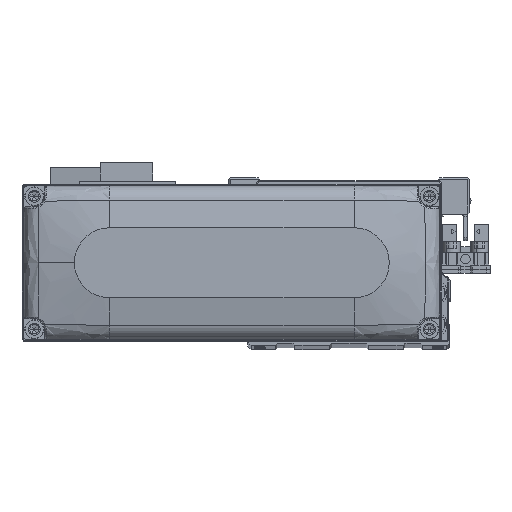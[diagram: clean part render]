
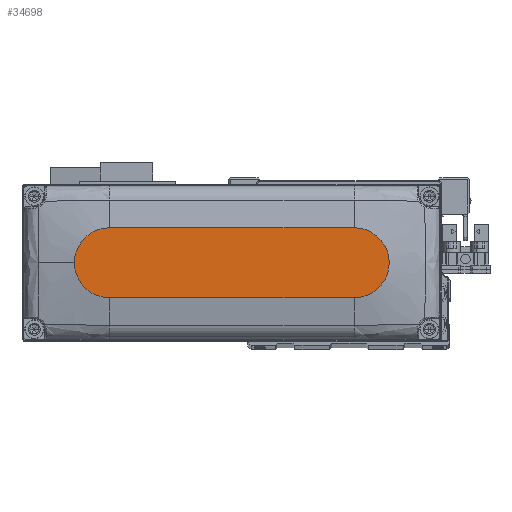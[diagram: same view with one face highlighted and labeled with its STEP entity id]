
A CAD part, top view. The second image highlights one B-rep face of the part: STEP entity #34698.
In plain terms, the highlighted planar face has unit normal (0, 0, 1).
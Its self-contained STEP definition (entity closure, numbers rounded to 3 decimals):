
#624 = CIRCLE ( 'NONE', #28200, 10. ) ;
#2427 = DIRECTION ( 'NONE',  ( 0., 0., 1. ) ) ;
#2780 = CARTESIAN_POINT ( 'NONE',  ( 0., 0., 28. ) ) ;
#2792 = CARTESIAN_POINT ( 'NONE',  ( -35., -10., 28. ) ) ;
#4829 = EDGE_CURVE ( 'NONE', #12061, #28481, #25155, .T. ) ;
#5928 = EDGE_LOOP ( 'NONE', ( #20761, #17204, #14498, #31996, #19137 ) ) ;
#7995 = CARTESIAN_POINT ( 'NONE',  ( -35., 0., 28. ) ) ;
#8040 = DIRECTION ( 'NONE',  ( 1., 0., 0. ) ) ;
#8053 = CIRCLE ( 'NONE', #30480, 10. ) ;
#8997 = DIRECTION ( 'NONE',  ( -1., 0., 0. ) ) ;
#9895 = DIRECTION ( 'NONE',  ( 1., 0., 0. ) ) ;
#10412 = CARTESIAN_POINT ( 'NONE',  ( 45., 0., 28. ) ) ;
#11120 = CIRCLE ( 'NONE', #33553, 10. ) ;
#12061 = VERTEX_POINT ( 'NONE', #2792 ) ;
#12557 = EDGE_CURVE ( 'NONE', #23220, #33184, #24252, .T. ) ;
#13156 = EDGE_CURVE ( 'NONE', #28481, #34905, #11120, .T. ) ;
#14498 = ORIENTED_EDGE ( 'NONE', *, *, #4829, .T. ) ;
#14690 = DIRECTION ( 'NONE',  ( 1., 0., 0. ) ) ;
#15028 = DIRECTION ( 'NONE',  ( 0., 0., 1. ) ) ;
#17204 = ORIENTED_EDGE ( 'NONE', *, *, #20162, .T. ) ;
#18052 = FACE_OUTER_BOUND ( 'NONE', #5928, .T. ) ;
#19137 = ORIENTED_EDGE ( 'NONE', *, *, #25427, .T. ) ;
#19582 = CARTESIAN_POINT ( 'NONE',  ( 35., -10., 28. ) ) ;
#20162 = EDGE_CURVE ( 'NONE', #33184, #12061, #8053, .T. ) ;
#20241 = DIRECTION ( 'NONE',  ( 0., 0., 1. ) ) ;
#20761 = ORIENTED_EDGE ( 'NONE', *, *, #12557, .T. ) ;
#21051 = CARTESIAN_POINT ( 'NONE',  ( -35., 10., 28. ) ) ;
#22076 = VECTOR ( 'NONE', #9895, 1000. ) ;
#23220 = VERTEX_POINT ( 'NONE', #29824 ) ;
#23294 = CARTESIAN_POINT ( 'NONE',  ( 35., 0., 28. ) ) ;
#24252 = LINE ( 'NONE', #36446, #28491 ) ;
#25155 = LINE ( 'NONE', #37341, #22076 ) ;
#25427 = EDGE_CURVE ( 'NONE', #34905, #23220, #624, .T. ) ;
#27276 = DIRECTION ( 'NONE',  ( 1., 0., 0. ) ) ;
#28200 = AXIS2_PLACEMENT_3D ( 'NONE', #29940, #2427, #14690 ) ;
#28481 = VERTEX_POINT ( 'NONE', #19582 ) ;
#28491 = VECTOR ( 'NONE', #8997, 1000. ) ;
#29824 = CARTESIAN_POINT ( 'NONE',  ( 35., 10., 28. ) ) ;
#29940 = CARTESIAN_POINT ( 'NONE',  ( 35., 0., 28. ) ) ;
#30287 = PLANE ( 'NONE',  #35619 ) ;
#30480 = AXIS2_PLACEMENT_3D ( 'NONE', #7995, #20241, #32466 ) ;
#31996 = ORIENTED_EDGE ( 'NONE', *, *, #13156, .T. ) ;
#32466 = DIRECTION ( 'NONE',  ( 1., 0., 0. ) ) ;
#33184 = VERTEX_POINT ( 'NONE', #21051 ) ;
#33553 = AXIS2_PLACEMENT_3D ( 'NONE', #23294, #35488, #8040 ) ;
#34698 = ADVANCED_FACE ( 'NONE', ( #18052 ), #30287, .T. ) ;
#34905 = VERTEX_POINT ( 'NONE', #10412 ) ;
#35488 = DIRECTION ( 'NONE',  ( 0., 0., 1. ) ) ;
#35619 = AXIS2_PLACEMENT_3D ( 'NONE', #2780, #15028, #27276 ) ;
#36446 = CARTESIAN_POINT ( 'NONE',  ( -35., 10., 28. ) ) ;
#37341 = CARTESIAN_POINT ( 'NONE',  ( -35., -10., 28. ) ) ;
